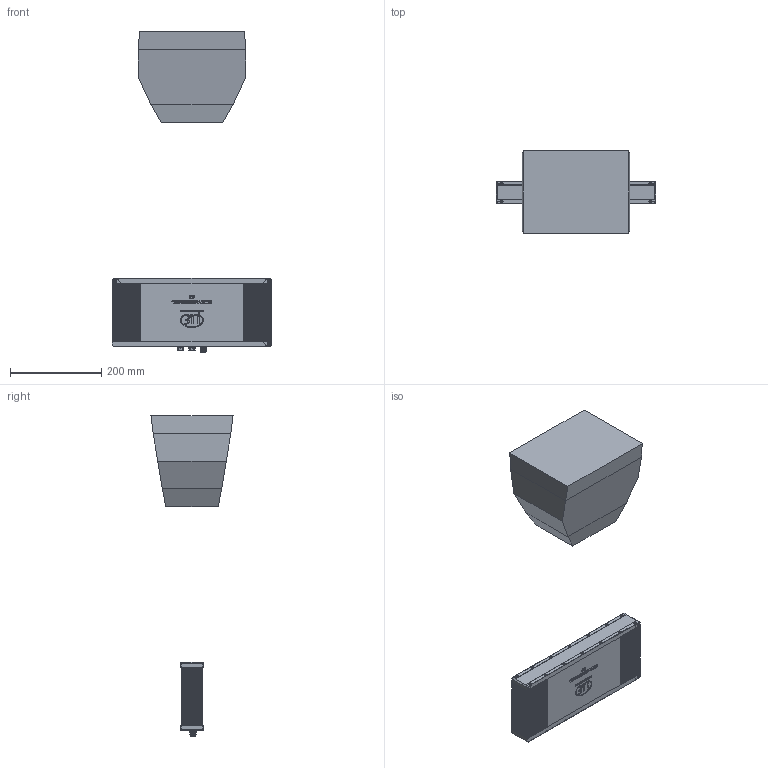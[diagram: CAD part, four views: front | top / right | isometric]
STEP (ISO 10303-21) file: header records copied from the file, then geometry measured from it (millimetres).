
FILE_DESCRIPTION((''),'2;1');
FILE_NAME('0000631941_ASM','2024-03-08T12:10:22',('11000958'),(''),'CREO PARAMETRIC BY PTC INC, 2022424','CREO PARAMETRIC BY PTC INC, 2022424','');
FILE_SCHEMA(('AUTOMOTIVE_DESIGN { 1 0 10303 214 1 1 1 1 }'));
Products named in the file (4): 0000631937; 0000609280; 0000609284; 0000631941_ASM
Assembly tree (3 placements, depth 2):
  0000631941_ASM
    0000631937
    0000609280
    0000609284
Bounding box: 350 x 180 x 702.5 mm (x, y, z)
Volume: 8859456.1 mm3; surface area: 545880.6 mm2
Topology: 4 solids, 6 shells, 4435 faces, 11857 edges, 7724 vertices
Faces by surface type: plane 1989, cylinder 1547, extrusion 619, cone 120, torus 115, bspline 35, sphere 10
Entity records: 236071 total; most frequent: CARTESIAN_POINT 56316, ORIENTED_EDGE 23694, DIRECTION 22758, PRESENTATION_STYLE_ASSIGNMENT 16050, STYLED_ITEM 12147, CURVE_STYLE 12135, EDGE_CURVE 11847, AXIS2_PLACEMENT_3D 7945
